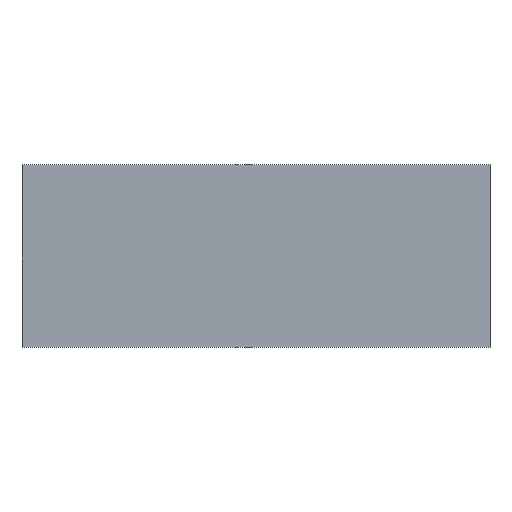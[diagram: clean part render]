
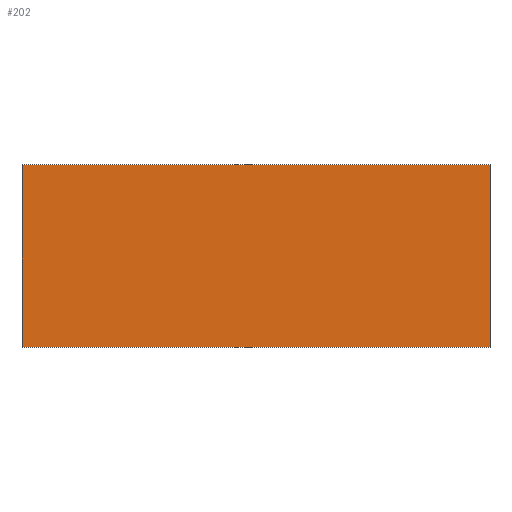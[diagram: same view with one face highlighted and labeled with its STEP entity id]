
A CAD part, top view. The second image highlights one B-rep face of the part: STEP entity #202.
In plain terms, the highlighted planar face has unit normal (0, 0, 1).
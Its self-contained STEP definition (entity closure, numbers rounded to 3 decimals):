
#9 = EDGE_CURVE ( 'NONE', #50, #42, #171, .T. ) ;
#10 = AXIS2_PLACEMENT_3D ( 'NONE', #62, #117, #51 ) ;
#15 = EDGE_CURVE ( 'NONE', #41, #40, #186, .T. ) ;
#20 = EDGE_CURVE ( 'NONE', #40, #50, #190, .T. ) ;
#27 = EDGE_CURVE ( 'NONE', #42, #41, #187, .T. ) ;
#40 = VERTEX_POINT ( 'NONE', #75 ) ;
#41 = VERTEX_POINT ( 'NONE', #55 ) ;
#42 = VERTEX_POINT ( 'NONE', #83 ) ;
#50 = VERTEX_POINT ( 'NONE', #113 ) ;
#51 = DIRECTION ( 'NONE',  ( 0., 1., 0. ) ) ;
#54 = CARTESIAN_POINT ( 'NONE',  ( -551., 0., 6. ) ) ;
#55 = CARTESIAN_POINT ( 'NONE',  ( 551., 429., 6. ) ) ;
#62 = CARTESIAN_POINT ( 'NONE',  ( -551., 429., 6. ) ) ;
#75 = CARTESIAN_POINT ( 'NONE',  ( -551., 429., 6. ) ) ;
#81 = CARTESIAN_POINT ( 'NONE',  ( 551., 0., 6. ) ) ;
#82 = CARTESIAN_POINT ( 'NONE',  ( -551., 429., 6. ) ) ;
#83 = CARTESIAN_POINT ( 'NONE',  ( 551., 0., 6. ) ) ;
#89 = PLANE ( 'NONE',  #10 ) ;
#105 = DIRECTION ( 'NONE',  ( 1., 0., 0. ) ) ;
#106 = DIRECTION ( 'NONE',  ( -1., 0., 0. ) ) ;
#107 = DIRECTION ( 'NONE',  ( 0., -1., 0. ) ) ;
#108 = CARTESIAN_POINT ( 'NONE',  ( -551., 0., 6. ) ) ;
#111 = DIRECTION ( 'NONE',  ( 0., 1., 0. ) ) ;
#113 = CARTESIAN_POINT ( 'NONE',  ( -551., 0., 6. ) ) ;
#117 = DIRECTION ( 'NONE',  ( 0., 0., -1. ) ) ;
#128 = VECTOR ( 'NONE', #111, 1000. ) ;
#132 = VECTOR ( 'NONE', #105, 1000. ) ;
#136 = FACE_OUTER_BOUND ( 'NONE', #172, .T. ) ;
#141 = ORIENTED_EDGE ( 'NONE', *, *, #20, .T. ) ;
#151 = VECTOR ( 'NONE', #106, 1000. ) ;
#162 = VECTOR ( 'NONE', #107, 1000. ) ;
#171 = LINE ( 'NONE', #54, #132 ) ;
#172 = EDGE_LOOP ( 'NONE', ( #141, #183, #174, #173 ) ) ;
#173 = ORIENTED_EDGE ( 'NONE', *, *, #15, .T. ) ;
#174 = ORIENTED_EDGE ( 'NONE', *, *, #27, .T. ) ;
#183 = ORIENTED_EDGE ( 'NONE', *, *, #9, .T. ) ;
#186 = LINE ( 'NONE', #82, #151 ) ;
#187 = LINE ( 'NONE', #81, #128 ) ;
#190 = LINE ( 'NONE', #108, #162 ) ;
#202 = ADVANCED_FACE ( 'NONE', ( #136 ), #89, .F. ) ;
